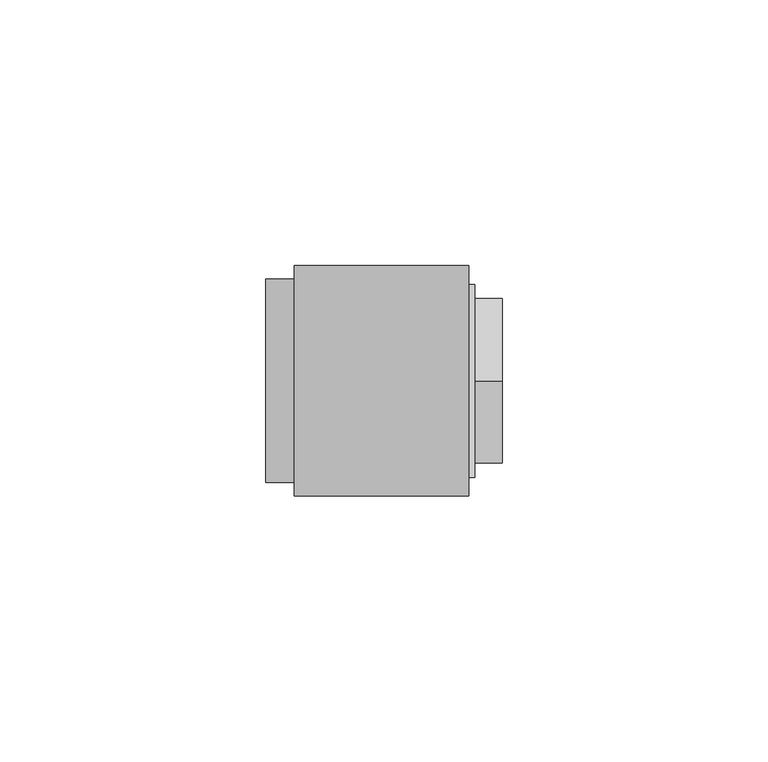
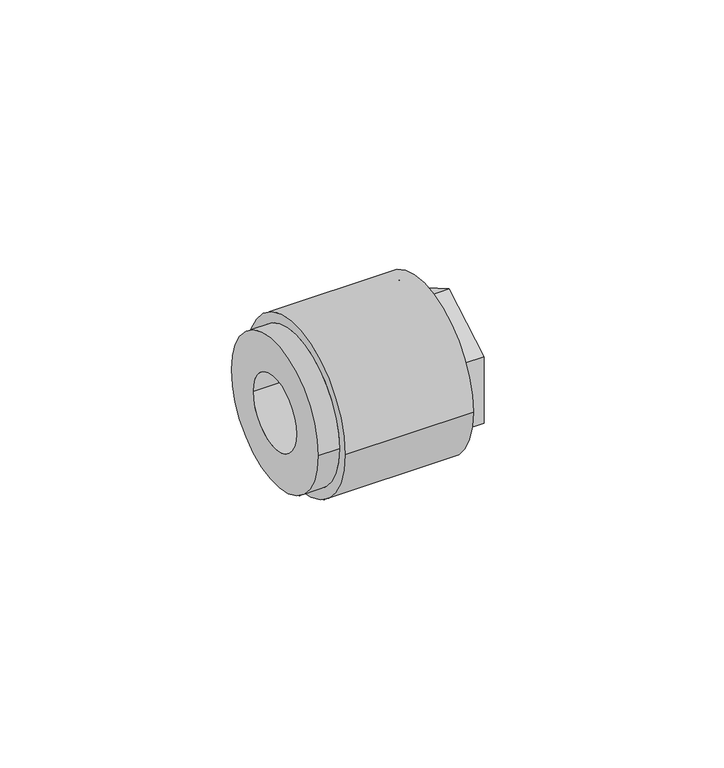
"""IFC4 building model written with IfcOpenShell, lengths in millimetres: pipe fitting geometry, Aquatherm - Fusion Outlet Transition Female : POTABLE BRASS - HEX."""

from ifc_helpers import new_model, si_unit, frame, origin, place, context, project, spatial, polyline, circle_curve, source, transform, mapped, element, save
from ifc_brep_helpers import plane_surface, cylinder_surface, revolved_surface, advanced_brep


def pipe_fitting_e8fa63ec(model_context):
    return source(origin(), model_context, "Body", "AdvancedBrep", [
        advanced_brep(
        [(25.62225, 12.7, 0.0), (25.62225, -12.7, 0.0), (36.5363125, -12.7, 0.0), (36.5363125, 12.7, 0.0), (25.62225, 13.49375, 0.0), (25.62225, -13.49375, 0.0), (22.44725, 13.49375, 0.0), (22.44725, -13.49375, 0.0), (22.44725, 9.525, 0.0), (22.44725, -9.525, 0.0), (19.27225, 9.525, 0.0), (19.27225, -9.525, 0.0), (19.27225, 19.177, 0.0), (19.27225, -19.177, 0.0), (32.766, 19.177, 0.0), (32.766, -19.177, 0.0), (39.116, 13.49375, 0.0), (39.116, -13.49375, 0.0), (39.116, -15.494, 0.0), (39.116, -15.494, -8.9454651), (39.116, 0.0, -17.8909301), (39.116, 15.494, -8.9454651), (39.116, 15.494, 0.0), (39.116, 15.494, 8.9454651), (39.116, 0.0, 17.8909301), (39.116, -15.494, 8.9454651), (32.766, 18.161, 0.0), (32.766, -18.161, 0.0), (33.956625, 18.161, 0.0), (33.956625, -18.161, 0.0), (33.956625, 0.0, -17.8909301), (33.956625, -15.494, -8.9454651), (33.956625, -15.494, 8.9454651), (33.956625, 0.0, 17.8909301), (33.956625, 15.494, 8.9454651), (33.956625, 15.494, -8.9454651)],
        [
            (0, 1, circle_curve(frame((25.62225, 0.0, 0.0), z_axis=(-1.0, 0.0, 0.0), x_axis=(0.0, -1.0, 0.0)), 12.7)),
            (1, 2),
            (2, 3, circle_curve(frame((36.5363125, 0.0, 0.0), z_axis=(1.0, 0.0, 0.0), x_axis=(0.0, -1.0, 0.0)), 12.7)),
            (3, 0),
            (1, 0, circle_curve(frame((25.62225, 0.0, 0.0), z_axis=(-1.0, 0.0, 0.0), x_axis=(0.0, -1.0, 0.0)), 12.7)),
            (3, 2, circle_curve(frame((36.5363125, 0.0, 0.0), z_axis=(1.0, 0.0, 0.0), x_axis=(0.0, -1.0, 0.0)), 12.7)),
            (0, 4),
            (4, 5, circle_curve(frame((25.62225, 0.0, 0.0), z_axis=(-1.0, 0.0, 0.0), x_axis=(0.0, -1.0, 0.0)), 13.49375)),
            (5, 1),
            (5, 4, circle_curve(frame((25.62225, 0.0, 0.0), z_axis=(-1.0, 0.0, 0.0), x_axis=(0.0, -1.0, 0.0)), 13.49375)),
            (4, 6),
            (6, 7, circle_curve(frame((22.44725, 0.0, 0.0), z_axis=(-1.0, 0.0, 0.0), x_axis=(0.0, -1.0, 0.0)), 13.49375)),
            (7, 5),
            (7, 6, circle_curve(frame((22.44725, 0.0, 0.0), z_axis=(-1.0, 0.0, 0.0), x_axis=(0.0, -1.0, 0.0)), 13.49375)),
            (6, 8),
            (8, 9, circle_curve(frame((22.44725, 0.0, 0.0), z_axis=(-1.0, 0.0, 0.0), x_axis=(0.0, -1.0, 0.0)), 9.525)),
            (9, 7),
            (9, 8, circle_curve(frame((22.44725, 0.0, 0.0), z_axis=(-1.0, 0.0, 0.0), x_axis=(0.0, -1.0, 0.0)), 9.525)),
            (8, 10),
            (10, 11, circle_curve(frame((19.27225, 0.0, 0.0), z_axis=(-1.0, 0.0, 0.0), x_axis=(0.0, -1.0, 0.0)), 9.525)),
            (11, 9),
            (11, 10, circle_curve(frame((19.27225, 0.0, 0.0), z_axis=(-1.0, 0.0, 0.0), x_axis=(0.0, -1.0, 0.0)), 9.525)),
            (10, 12),
            (12, 13, circle_curve(frame((19.27225, 0.0, 0.0), z_axis=(-1.0, 0.0, 0.0), x_axis=(0.0, -1.0, 0.0)), 19.177)),
            (13, 11),
            (13, 12, circle_curve(frame((19.27225, 0.0, 0.0), z_axis=(-1.0, 0.0, 0.0), x_axis=(0.0, -1.0, 0.0)), 19.177)),
            (12, 14),
            (14, 15, circle_curve(frame((32.766, 0.0, 0.0), z_axis=(-1.0, 0.0, 0.0), x_axis=(0.0, -1.0, 0.0)), 19.177)),
            (15, 13),
            (15, 14, circle_curve(frame((32.766, 0.0, 0.0), z_axis=(-1.0, 0.0, 0.0), x_axis=(0.0, -1.0, 0.0)), 19.177)),
            (16, 17, circle_curve(frame((39.116, 0.0, 0.0), z_axis=(-1.0, 0.0, 0.0), x_axis=(0.0, -1.0, 0.0)), 13.49375)),
            (17, 18),
            (18, 19),
            (19, 20),
            (20, 21),
            (21, 22),
            (22, 16),
            (17, 16, circle_curve(frame((39.116, 0.0, 0.0), z_axis=(-1.0, 0.0, 0.0), x_axis=(0.0, -1.0, 0.0)), 13.49375)),
            (22, 23),
            (23, 24),
            (24, 25),
            (25, 18),
            (2, 17),
            (16, 3),
            (14, 26),
            (26, 27, circle_curve(frame((32.766, 0.0, 0.0), z_axis=(-1.0, 0.0, 0.0), x_axis=(0.0, -1.0, 0.0)), 18.161)),
            (27, 15),
            (27, 26, circle_curve(frame((32.766, 0.0, 0.0), z_axis=(-1.0, 0.0, 0.0), x_axis=(0.0, -1.0, 0.0)), 18.161)),
            (26, 28),
            (28, 29, circle_curve(frame((33.956625, 0.0, 0.0), z_axis=(-1.0, 0.0, 0.0), x_axis=(0.0, -1.0, 0.0)), 18.161)),
            (29, 27),
            (29, 28, circle_curve(frame((33.956625, 0.0, 0.0), z_axis=(-1.0, 0.0, 0.0), x_axis=(0.0, -1.0, 0.0)), 18.161)),
            (30, 31),
            (31, 32),
            (32, 33),
            (33, 34),
            (34, 35),
            (35, 30),
            (35, 21),
            (20, 30),
            (34, 23),
            (33, 24),
            (32, 25),
            (31, 19),
        ],
        [
            revolved_surface(polyline([(36.5363125, -12.7, 0.0), (25.62225, -12.7, 0.0)]), (40.9492251, 0.0, 0.0), (1.0, 0.0, 0.0)),
            plane_surface(frame((25.62225, 0.0, 0.0), z_axis=(-1.0, 0.0, 0.0), x_axis=(0.0, -1.0, 0.0))),
            revolved_surface(polyline([(25.62225, -13.49375, 0.0), (22.44725, -13.49375, 0.0)]), (40.9492251, 0.0, 0.0), (1.0, 0.0, 0.0)),
            plane_surface(frame((22.44725, 0.0, 0.0), z_axis=(1.0, 0.0, 0.0), x_axis=(0.0, -1.0, 0.0))),
            revolved_surface(polyline([(22.44725, -9.525, 0.0), (19.27225, -9.525, 0.0)]), (40.9492251, 0.0, 0.0), (1.0, 0.0, 0.0)),
            plane_surface(frame((19.27225, 0.0, 0.0), z_axis=(-1.0, 0.0, 0.0), x_axis=(0.0, -1.0, 0.0))),
            cylinder_surface(frame((40.9492251, 0.0, 0.0), z_axis=(1.0, 0.0, 0.0), x_axis=(0.0, -1.0, 0.0)), 19.177),
            plane_surface(frame((39.116, 0.0, 0.0), z_axis=(1.0, 0.0, 0.0), x_axis=(0.0, -1.0, 0.0))),
            revolved_surface(polyline([(39.116, -13.49375, 0.0), (36.5363125, -12.7, 0.0)]), (40.9492251, 0.0, 0.0), (1.0, 0.0, 0.0)),
            plane_surface(frame((32.766, 0.0, 0.0), z_axis=(1.0, 0.0, 0.0), x_axis=(0.0, -1.0, 0.0))),
            cylinder_surface(frame((40.9492251, 0.0, 0.0), z_axis=(1.0, 0.0, 0.0), x_axis=(0.0, -1.0, 0.0)), 18.161),
            plane_surface(frame((33.956625, 15.494, -8.9454651), z_axis=(1.0000000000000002, 0.0, 0.0), x_axis=(0.0, 0.8660254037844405, 0.49999999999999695))),
            plane_surface(frame((33.956625, 0.0, -17.8909301), z_axis=(0.0, 0.49999999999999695, -0.8660254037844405), x_axis=(1.0, 0.0, 0.0))),
            plane_surface(frame((33.956625, 15.494, -8.9454651), z_axis=(0.0, 1.0, 0.0), x_axis=(1.0, 0.0, 0.0))),
            plane_surface(frame((33.956625, 15.494, 8.9454651), z_axis=(0.0, 0.5000000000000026, 0.8660254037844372), x_axis=(1.0, 0.0, 0.0))),
            plane_surface(frame((33.956625, 0.0, 17.8909301), z_axis=(0.0, -0.499999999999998, 0.8660254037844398), x_axis=(1.0, 0.0, 0.0))),
            plane_surface(frame((33.956625, -15.494, 8.9454651), z_axis=(0.0, -1.0, 0.0), x_axis=(1.0, 0.0, 0.0))),
            plane_surface(frame((33.956625, -15.494, -8.9454651), z_axis=(0.0, -0.5000000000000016, -0.8660254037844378), x_axis=(1.0, 0.0, 0.0))),
        ],
        [
            (0, [[1, 2, 3, 4]]),
            (0, [[-2, 5, -4, 6]]),
            (1, [[-1, 7, 8, 9]]),
            (1, [[-5, -9, 10, -7]]),
            (2, [[-8, 11, 12, 13]]),
            (2, [[-10, -13, 14, -11]]),
            (3, [[-12, 15, 16, 17]]),
            (3, [[-14, -17, 18, -15]]),
            (4, [[-16, 19, 20, 21]]),
            (4, [[-18, -21, 22, -19]]),
            (5, [[-20, 23, 24, 25]]),
            (5, [[-22, -25, 26, -23]]),
            (6, [[-24, 27, 28, 29]]),
            (6, [[-26, -29, 30, -27]]),
            (7, [[31, 32, 33, 34, 35, 36, 37]]),
            (7, [[38, -37, 39, 40, 41, 42, -32]]),
            (8, [[-3, 43, -31, 44]]),
            (8, [[-6, -44, -38, -43]]),
            (9, [[-28, 45, 46, 47]]),
            (9, [[-30, -47, 48, -45]]),
            (10, [[-46, 49, 50, 51]]),
            (10, [[-48, -51, 52, -49]]),
            (11, [[-50, -52], [53, 54, 55, 56, 57, 58]]),
            (12, [[-58, 59, -35, 60]]),
            (13, [[-57, 61, -39, -36, -59]]),
            (14, [[-56, 62, -40, -61]]),
            (15, [[-55, 63, -41, -62]]),
            (16, [[-54, 64, -33, -42, -63]]),
            (17, [[-53, -60, -34, -64]]),
        ],
    ),
        advanced_brep(
        [(-5.4232432, 19.177, 0.0), (-5.4232432, -19.177, 0.0), (-5.4232432, 9.525, 0.0), (-5.4232432, -9.525, 0.0), (19.27225, 19.177, 0.0), (19.27225, -19.177, 0.0), (19.27225, 9.525, 0.0), (19.27225, -9.525, 0.0), (0.0, 19.177, 0.0), (0.0, -19.177, 0.0), (32.766, 21.717, 0.0), (32.766, -21.717, 0.0), (32.766, 19.177, 0.0), (32.766, -19.177, 0.0), (0.0, 21.717, 0.0), (0.0, -21.717, 0.0)],
        [
            (0, 1, circle_curve(frame((-5.4232432, 0.0, 0.0), z_axis=(-1.0, 0.0, 0.0), x_axis=(0.0, -1.0, 0.0)), 19.177)),
            (1, 0, circle_curve(frame((-5.4232432, 0.0, 0.0), z_axis=(-1.0, 0.0, 0.0), x_axis=(0.0, -1.0, 0.0)), 19.177)),
            (2, 3, circle_curve(frame((-5.4232432, 0.0, 0.0), z_axis=(1.0, 0.0, 0.0), x_axis=(0.0, -1.0, 0.0)), 9.525)),
            (3, 2, circle_curve(frame((-5.4232432, 0.0, 0.0), z_axis=(1.0, 0.0, 0.0), x_axis=(0.0, -1.0, 0.0)), 9.525)),
            (4, 5, circle_curve(frame((19.27225, 0.0, 0.0), z_axis=(1.0, 0.0, 0.0), x_axis=(0.0, -1.0, 0.0)), 19.177)),
            (5, 4, circle_curve(frame((19.27225, 0.0, 0.0), z_axis=(1.0, 0.0, 0.0), x_axis=(0.0, -1.0, 0.0)), 19.177)),
            (6, 7, circle_curve(frame((19.27225, 0.0, 0.0), z_axis=(-1.0, 0.0, 0.0), x_axis=(0.0, -1.0, 0.0)), 9.525)),
            (7, 6, circle_curve(frame((19.27225, 0.0, 0.0), z_axis=(-1.0, 0.0, 0.0), x_axis=(0.0, -1.0, 0.0)), 9.525)),
            (2, 6),
            (7, 3),
            (0, 8),
            (8, 9, circle_curve(frame((0.0, 0.0, 0.0), z_axis=(-1.0, 0.0, 0.0), x_axis=(0.0, -1.0, 0.0)), 19.177)),
            (9, 1),
            (9, 8, circle_curve(frame((0.0, 0.0, 0.0), z_axis=(-1.0, 0.0, 0.0), x_axis=(0.0, -1.0, 0.0)), 19.177)),
            (10, 11, circle_curve(frame((32.766, 0.0, 0.0), z_axis=(1.0, 0.0, 0.0), x_axis=(0.0, -1.0, 0.0)), 21.717)),
            (11, 10, circle_curve(frame((32.766, 0.0, 0.0), z_axis=(1.0, 0.0, 0.0), x_axis=(0.0, -1.0, 0.0)), 21.717)),
            (12, 13, circle_curve(frame((32.766, 0.0, 0.0), z_axis=(-1.0, 0.0, 0.0), x_axis=(0.0, -1.0, 0.0)), 19.177)),
            (13, 12, circle_curve(frame((32.766, 0.0, 0.0), z_axis=(-1.0, 0.0, 0.0), x_axis=(0.0, -1.0, 0.0)), 19.177)),
            (14, 15, circle_curve(frame((0.0, 0.0, 0.0), z_axis=(-1.0, 0.0, 0.0), x_axis=(0.0, -1.0, 0.0)), 21.717)),
            (15, 14, circle_curve(frame((0.0, 0.0, 0.0), z_axis=(-1.0, 0.0, 0.0), x_axis=(0.0, -1.0, 0.0)), 21.717)),
            (13, 5),
            (4, 12),
            (11, 15),
            (14, 10),
        ],
        [
            plane_surface(frame((-5.4232432, -9.525, 0.0), z_axis=(-1.0, 0.0, 0.0), x_axis=(0.0, 0.0, -1.0))),
            plane_surface(frame((19.27225, -9.525, 0.0), z_axis=(1.0, 0.0, 0.0), x_axis=(0.0, 0.0, 1.0))),
            revolved_surface(polyline([(19.27225, -9.525, 0.0), (-5.423243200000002, -9.525, 0.0)]), (19.27225, 0.0, 0.0), (1.0, 0.0, 0.0)),
            cylinder_surface(frame((0.0, 0.0, 0.0), z_axis=(-1.0, 0.0, 0.0), x_axis=(0.0, -1.0, 0.0)), 19.177),
            plane_surface(frame((32.766, -19.177, 0.0), z_axis=(1.0, 0.0, 0.0), x_axis=(0.0, 0.0, 1.0))),
            plane_surface(frame((0.0, -19.177, 0.0), z_axis=(-1.0, 0.0, 0.0), x_axis=(0.0, 0.0, -1.0))),
            revolved_surface(polyline([(32.766, -19.177, 0.0), (19.27225, -19.177, 0.0)]), (32.766, 0.0, 0.0), (1.0, 0.0, 0.0)),
            cylinder_surface(frame((0.0, 0.0, 0.0), z_axis=(-1.0, 0.0, 0.0), x_axis=(0.0, -1.0, 0.0)), 21.717),
        ],
        [
            (0, [[1, 2], [3, 4]]),
            (1, [[5, 6], [7, 8]]),
            (2, [[-3, 9, -8, 10]]),
            (2, [[-4, -10, -7, -9]]),
            (3, [[-1, 11, 12, 13]]),
            (3, [[-2, -13, 14, -11]]),
            (4, [[15, 16], [17, 18]]),
            (5, [[19, 20], [-12, -14]]),
            (6, [[-18, 21, -5, 22]]),
            (6, [[-17, -22, -6, -21]]),
            (7, [[-16, 23, -19, 24]]),
            (7, [[-15, -24, -20, -23]]),
        ],
    ),
    ])


if __name__ == "__main__":
    model = new_model("IFC4")
    model_context = context("Model", 3, world=origin())
    ifc_project = project(units=[si_unit("LENGTHUNIT", "METRE", prefix="MILLI")], contexts=[model_context])
    site = spatial("IfcSite", under=ifc_project)
    building = spatial("IfcBuilding", under=site)
    placement = place(None, origin())
    pipe_fitting_shape = pipe_fitting_e8fa63ec(model_context)
    element("IfcPipeFitting", 1, ObjectType="Aquatherm - Fusion Outlet Transition Female : POTABLE BRASS - HEX", at=placement, inside=building, context=model_context, shape_type="MappedRepresentation", body=[
        mapped(pipe_fitting_shape, transform((0.0, 0.0, 0.0), x_axis=(1.0, 0.0, 0.0), y_axis=(0.0, 1.0, 0.0), z_axis=(0.0, 0.0, 1.0))),
    ])
    save(model, "model.ifc")
